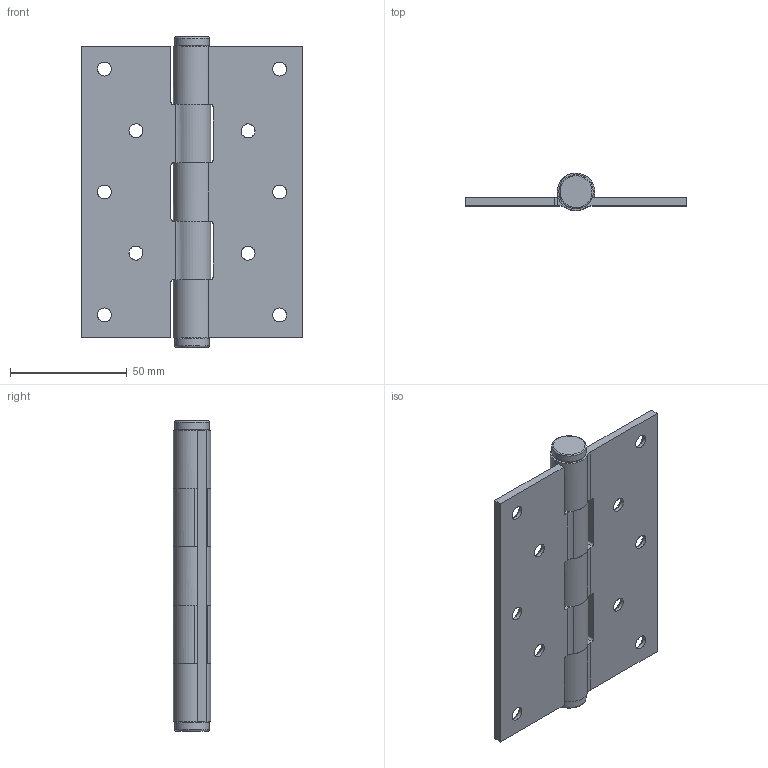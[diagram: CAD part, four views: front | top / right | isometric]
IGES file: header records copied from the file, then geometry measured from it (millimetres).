
Global section: file name: DR_HH12595-35; native system: Autodesk Inventor 2015; preprocessor: unknown; author: Administrator; date: 20170816.180237; units: millimetre
Bounding box: 95 x 16 x 133 mm (x, y, z)
Volume: 58997.5 mm3; surface area: 37216.4 mm2
Topology: 3 solids, 3 shells, 87 faces, 257 edges, 178 vertices
Faces by surface type: bspline 87
